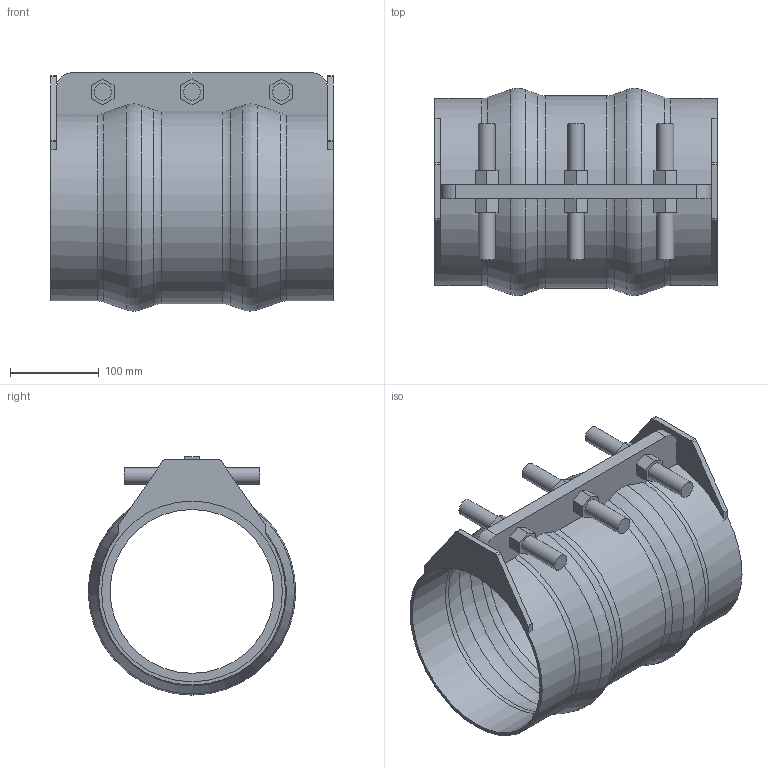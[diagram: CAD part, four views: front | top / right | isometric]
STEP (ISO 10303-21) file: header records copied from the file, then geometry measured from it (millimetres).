
FILE_DESCRIPTION(/* description */ ('VIC SS RESTRAINED COUPLING STYLE 233S (FLEX) (BRD)','CAx-IF Rec.Pracs.---Representation and Presentation of Product Manufacturing Information (PMI)---4.0---2014-10-13'),/* implementation_level */ '2;1');
FILE_NAME(/* name */ 'C:\Users\kkamble\AppData\Roaming\Autodesk\ApplicationPlugins\Back Up\Victaulic_VBSP_Coupling Flexible Restrained_Style 233S (BRD)\Victaulic_VBSP_Coupling Flexible Restrained_Style 233S (BRD)_300psi_8 (200).stp',/* time_stamp */ '2020-09-22T18:28:18+06:00',/* author */ ('Vjadhav'),/* organization */ ('Victaulic'),/* preprocessor_version */ 'ST-DEVELOPER v17.2',/* originating_system */ 'Autodesk Inventor 2019',/* authorisation */ '');
FILE_SCHEMA (('AP242_MANAGED_MODEL_BASED_3D_ENGINEERING_MIM_LF { 1 0 10303 442 1 1 4 }'));
Length unit declared in the file: inch
Products named in the file (1): Style_233S_Type_2_300psi-08.0
Bounding box: 317.5 x 233.07 x 267.82 mm (x, y, z)
Volume: 1368520.8 mm3; surface area: 528303.6 mm2
Topology: 1 solids, 1 shells, 111 faces, 301 edges, 206 vertices
Faces by surface type: plane 67, cylinder 24, torus 12, cone 8
Full cylindrical faces by diameter (mm): 19.05 x6, 184.15 x1, 203.2 x2, 209.55 x2
Entity records: 3858 total; most frequent: CARTESIAN_POINT 732, DIRECTION 633, ORIENTED_EDGE 602, EDGE_CURVE 301, AXIS2_PLACEMENT_3D 227, VERTEX_POINT 206, LINE 179, VECTOR 179
